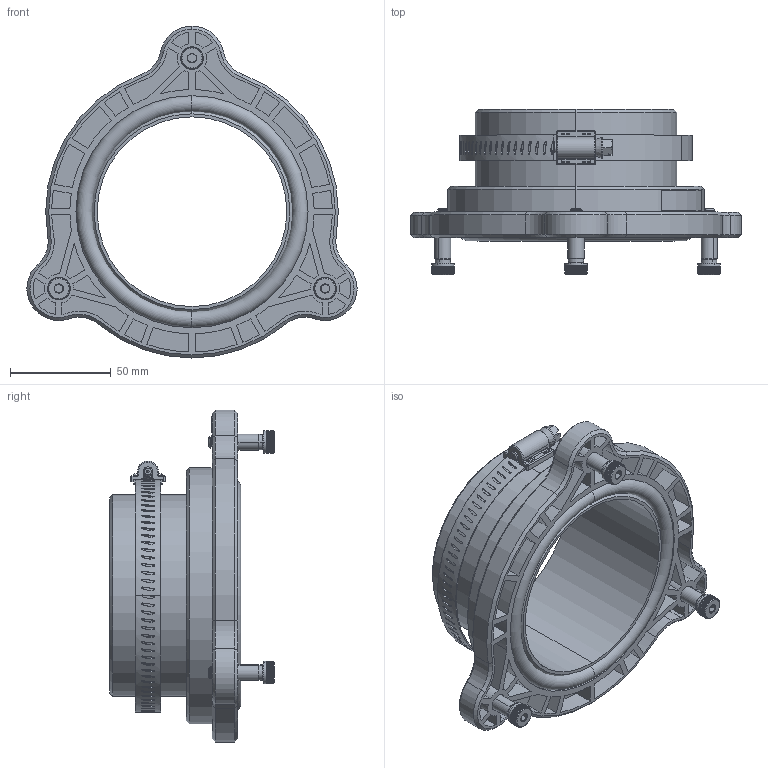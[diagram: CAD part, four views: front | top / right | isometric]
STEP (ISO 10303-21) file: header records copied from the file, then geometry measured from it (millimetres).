
FILE_DESCRIPTION (( 'STEP AP214' ), '1' );
FILE_NAME ('80001565.STEP', '2023-11-09T15:42:02', ( '' ), ( '' ), 'SwSTEP 2.0', 'SolidWorks 2022', '' );
FILE_SCHEMA (( 'AUTOMOTIVE_DESIGN' ));
Length unit declared in the file: millimetre
Products named in the file (10): 600529; 1802129_1802129; 1802123_1802123; 1001309; 7050531; 400301; 600528; 80001565; 1802181; 1001312_Quicklox Hose Plate
Assembly tree (13 placements, depth 3):
  80001565
    7050531
      600528
      1802181  x3
    1802123_1802123  x3
    400301
    600529
    1802129_1802129
    1001309
    1001312_Quicklox Hose Plate
Bounding box: 163.64 x 81.76 x 164.53 mm (x, y, z)
Volume: 192071 mm3; surface area: 131522.7 mm2
Topology: 15 solids, 15 shells, 1935 faces, 5095 edges, 3258 vertices
Faces by surface type: plane 796, cone 585, cylinder 465, bspline 66, torus 18, sphere 5
Entity records: 43759 total; most frequent: CARTESIAN_POINT 15585, ORIENTED_EDGE 6180, DIRECTION 5122, EDGE_CURVE 3090, VERTEX_POINT 1998, AXIS2_PLACEMENT_3D 1832, VECTOR 1458, LINE 1458
